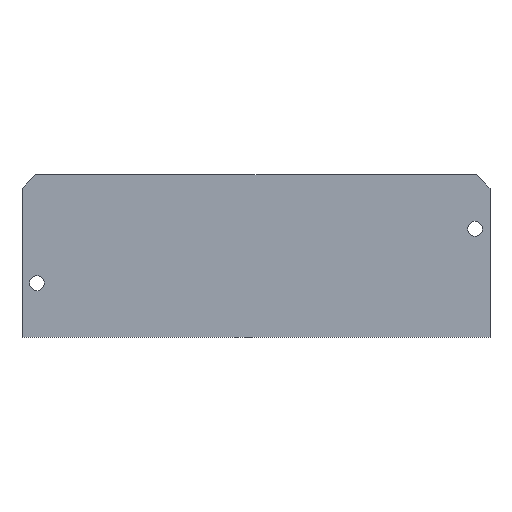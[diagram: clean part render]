
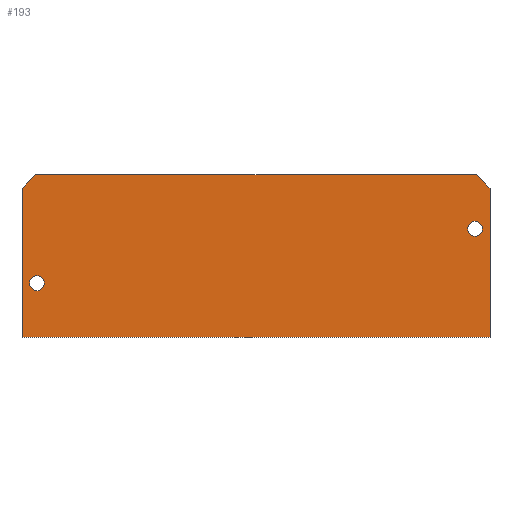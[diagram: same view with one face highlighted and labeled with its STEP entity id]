
A CAD part, top view. The second image highlights one B-rep face of the part: STEP entity #193.
In plain terms, the highlighted planar face has unit normal (0, 0, 1).
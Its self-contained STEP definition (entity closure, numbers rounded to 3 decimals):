
#2 = EDGE_CURVE ( 'NONE', #33, #248, #107, .T. ) ;
#5 = EDGE_LOOP ( 'NONE', ( #241, #121 ) ) ;
#12 = CARTESIAN_POINT ( 'NONE',  ( 0., 0., 0.8 ) ) ;
#15 = VECTOR ( 'NONE', #129, 1000. ) ;
#17 = CARTESIAN_POINT ( 'NONE',  ( 69., 22., 0.8 ) ) ;
#19 = DIRECTION ( 'NONE',  ( 1., 0., 0. ) ) ;
#23 = EDGE_CURVE ( 'NONE', #48, #364, #371, .T. ) ;
#25 = CARTESIAN_POINT ( 'NONE',  ( 66.8, 16., 0.8 ) ) ;
#30 = PLANE ( 'NONE',  #162 ) ;
#33 = VERTEX_POINT ( 'NONE', #17 ) ;
#36 = CARTESIAN_POINT ( 'NONE',  ( 0., 0., 0.8 ) ) ;
#37 = VERTEX_POINT ( 'NONE', #191 ) ;
#38 = AXIS2_PLACEMENT_3D ( 'NONE', #114, #44, #150 ) ;
#44 = DIRECTION ( 'NONE',  ( 0., 0., 1. ) ) ;
#47 = CARTESIAN_POINT ( 'NONE',  ( 66.8, 16., 0.8 ) ) ;
#48 = VERTEX_POINT ( 'NONE', #86 ) ;
#50 = CARTESIAN_POINT ( 'NONE',  ( 69., 0., 0.8 ) ) ;
#58 = CIRCLE ( 'NONE', #119, 1.1 ) ;
#61 = DIRECTION ( 'NONE',  ( 0., 0., -1. ) ) ;
#64 = ORIENTED_EDGE ( 'NONE', *, *, #84, .F. ) ;
#82 = CARTESIAN_POINT ( 'NONE',  ( 1.1, 8., 0.8 ) ) ;
#84 = EDGE_CURVE ( 'NONE', #37, #156, #182, .T. ) ;
#86 = CARTESIAN_POINT ( 'NONE',  ( 0., 22., 0.8 ) ) ;
#107 = LINE ( 'NONE', #299, #387 ) ;
#113 = ORIENTED_EDGE ( 'NONE', *, *, #23, .T. ) ;
#114 = CARTESIAN_POINT ( 'NONE',  ( 2.2, 8., 0.8 ) ) ;
#119 = AXIS2_PLACEMENT_3D ( 'NONE', #47, #184, #274 ) ;
#121 = ORIENTED_EDGE ( 'NONE', *, *, #320, .F. ) ;
#129 = DIRECTION ( 'NONE',  ( 1., 0., 0. ) ) ;
#146 = CARTESIAN_POINT ( 'NONE',  ( 0., 0., 0.8 ) ) ;
#150 = DIRECTION ( 'NONE',  ( 1., 0., 0. ) ) ;
#156 = VERTEX_POINT ( 'NONE', #166 ) ;
#162 = AXIS2_PLACEMENT_3D ( 'NONE', #261, #61, #201 ) ;
#166 = CARTESIAN_POINT ( 'NONE',  ( 67.9, 16., 0.8 ) ) ;
#169 = FACE_BOUND ( 'NONE', #5, .T. ) ;
#170 = CARTESIAN_POINT ( 'NONE',  ( 67., 24., 0.8 ) ) ;
#173 = EDGE_LOOP ( 'NONE', ( #64, #177 ) ) ;
#175 = EDGE_CURVE ( 'NONE', #345, #48, #321, .T. ) ;
#177 = ORIENTED_EDGE ( 'NONE', *, *, #307, .F. ) ;
#178 = VERTEX_POINT ( 'NONE', #390 ) ;
#182 = CIRCLE ( 'NONE', #354, 1.1 ) ;
#184 = DIRECTION ( 'NONE',  ( 0., 0., 1. ) ) ;
#186 = LINE ( 'NONE', #379, #289 ) ;
#191 = CARTESIAN_POINT ( 'NONE',  ( 65.7, 16., 0.8 ) ) ;
#193 = ADVANCED_FACE ( 'NONE', ( #231, #256, #169 ), #30, .F. ) ;
#201 = DIRECTION ( 'NONE',  ( -1., 0., 0. ) ) ;
#202 = LINE ( 'NONE', #36, #15 ) ;
#205 = CIRCLE ( 'NONE', #303, 1.1 ) ;
#212 = DIRECTION ( 'NONE',  ( 0., -1., 0. ) ) ;
#213 = CARTESIAN_POINT ( 'NONE',  ( 2.2, 8., 0.8 ) ) ;
#218 = DIRECTION ( 'NONE',  ( -0.707, 0.707, 0. ) ) ;
#226 = VECTOR ( 'NONE', #212, 1000. ) ;
#231 = FACE_OUTER_BOUND ( 'NONE', #408, .T. ) ;
#241 = ORIENTED_EDGE ( 'NONE', *, *, #336, .F. ) ;
#242 = DIRECTION ( 'NONE',  ( 0., 1., 0. ) ) ;
#248 = VERTEX_POINT ( 'NONE', #170 ) ;
#256 = FACE_BOUND ( 'NONE', #173, .T. ) ;
#258 = EDGE_CURVE ( 'NONE', #364, #335, #202, .T. ) ;
#261 = CARTESIAN_POINT ( 'NONE',  ( 0., 24., 0.8 ) ) ;
#262 = EDGE_CURVE ( 'NONE', #335, #33, #388, .T. ) ;
#264 = ORIENTED_EDGE ( 'NONE', *, *, #2, .T. ) ;
#274 = DIRECTION ( 'NONE',  ( 1., 0., 0. ) ) ;
#276 = CARTESIAN_POINT ( 'NONE',  ( 2., 24., 0.8 ) ) ;
#280 = ORIENTED_EDGE ( 'NONE', *, *, #175, .T. ) ;
#282 = DIRECTION ( 'NONE',  ( 1., 0., 0. ) ) ;
#289 = VECTOR ( 'NONE', #404, 1000. ) ;
#297 = VECTOR ( 'NONE', #242, 1000. ) ;
#299 = CARTESIAN_POINT ( 'NONE',  ( 67., 24., 0.8 ) ) ;
#303 = AXIS2_PLACEMENT_3D ( 'NONE', #213, #304, #19 ) ;
#304 = DIRECTION ( 'NONE',  ( 0., 0., 1. ) ) ;
#307 = EDGE_CURVE ( 'NONE', #156, #37, #58, .T. ) ;
#320 = EDGE_CURVE ( 'NONE', #178, #372, #407, .T. ) ;
#321 = LINE ( 'NONE', #357, #377 ) ;
#325 = DIRECTION ( 'NONE',  ( -0.707, -0.707, 0. ) ) ;
#335 = VERTEX_POINT ( 'NONE', #406 ) ;
#336 = EDGE_CURVE ( 'NONE', #372, #178, #205, .T. ) ;
#339 = ORIENTED_EDGE ( 'NONE', *, *, #349, .T. ) ;
#345 = VERTEX_POINT ( 'NONE', #276 ) ;
#349 = EDGE_CURVE ( 'NONE', #248, #345, #186, .T. ) ;
#354 = AXIS2_PLACEMENT_3D ( 'NONE', #25, #382, #282 ) ;
#357 = CARTESIAN_POINT ( 'NONE',  ( 0., 22., 0.8 ) ) ;
#364 = VERTEX_POINT ( 'NONE', #12 ) ;
#371 = LINE ( 'NONE', #146, #226 ) ;
#372 = VERTEX_POINT ( 'NONE', #82 ) ;
#377 = VECTOR ( 'NONE', #325, 1000. ) ;
#379 = CARTESIAN_POINT ( 'NONE',  ( 0., 24., 0.8 ) ) ;
#382 = DIRECTION ( 'NONE',  ( 0., 0., 1. ) ) ;
#387 = VECTOR ( 'NONE', #218, 1000. ) ;
#388 = LINE ( 'NONE', #50, #297 ) ;
#389 = ORIENTED_EDGE ( 'NONE', *, *, #258, .T. ) ;
#390 = CARTESIAN_POINT ( 'NONE',  ( 3.3, 8., 0.8 ) ) ;
#404 = DIRECTION ( 'NONE',  ( -1., 0., 0. ) ) ;
#405 = ORIENTED_EDGE ( 'NONE', *, *, #262, .T. ) ;
#406 = CARTESIAN_POINT ( 'NONE',  ( 69., 0., 0.8 ) ) ;
#407 = CIRCLE ( 'NONE', #38, 1.1 ) ;
#408 = EDGE_LOOP ( 'NONE', ( #339, #280, #113, #389, #405, #264 ) ) ;
